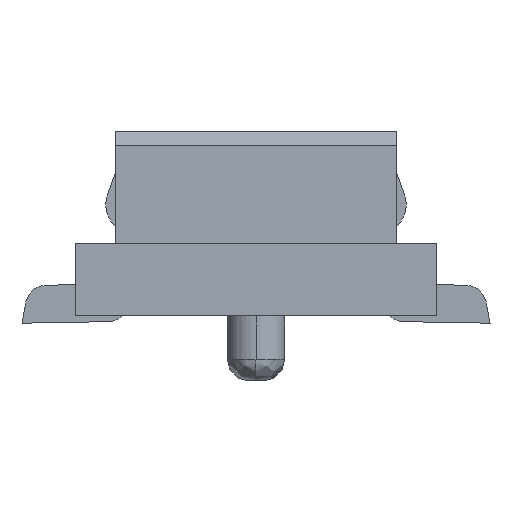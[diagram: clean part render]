
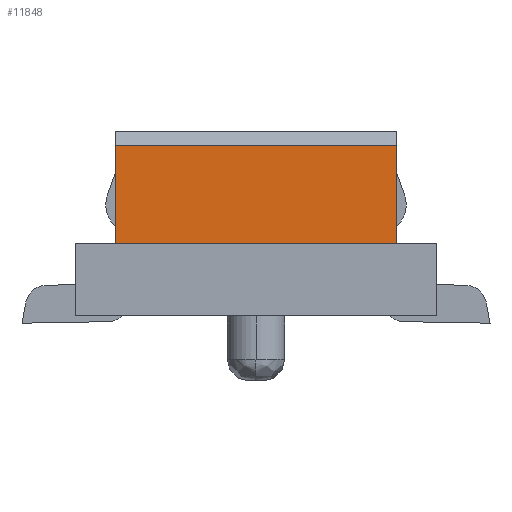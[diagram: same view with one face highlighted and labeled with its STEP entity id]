
A CAD part, left-side view. The second image highlights one B-rep face of the part: STEP entity #11848.
In plain terms, the highlighted planar face has unit normal (-1, 0, 0).
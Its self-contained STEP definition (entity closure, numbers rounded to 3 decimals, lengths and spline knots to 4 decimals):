
#631 = EDGE_CURVE ( 'NONE', #28581, #42670, #4096, .T. ) ;
#1253 = EDGE_CURVE ( 'NONE', #42670, #10628, #30663, .T. ) ;
#2260 = DIRECTION ( 'NONE',  ( 0., 1., 0. ) ) ;
#3810 = CARTESIAN_POINT ( 'NONE',  ( 1.025, 1.775, -1.28 ) ) ;
#4096 = LINE ( 'NONE', #49580, #45550 ) ;
#5394 = DIRECTION ( 'NONE',  ( 0., -1., 0. ) ) ;
#5653 = VECTOR ( 'NONE', #43430, 1000. ) ;
#6106 = DIRECTION ( 'NONE',  ( 0., 1., 0. ) ) ;
#8736 = DIRECTION ( 'NONE',  ( 0., 0., 1. ) ) ;
#10237 = VERTEX_POINT ( 'NONE', #3810 ) ;
#10628 = VERTEX_POINT ( 'NONE', #29868 ) ;
#10796 = LINE ( 'NONE', #61896, #28364 ) ;
#11428 = LINE ( 'NONE', #62206, #42815 ) ;
#11848 = ADVANCED_FACE ( 'NONE', ( #55187 ), #29656, .F. ) ;
#11910 = LINE ( 'NONE', #47765, #49811 ) ;
#15448 = EDGE_CURVE ( 'NONE', #49133, #58195, #43103, .T. ) ;
#15909 = ORIENTED_EDGE ( 'NONE', *, *, #49677, .F. ) ;
#17636 = VERTEX_POINT ( 'NONE', #36213 ) ;
#17821 = CARTESIAN_POINT ( 'NONE',  ( 1.025, 2.225, -0.1 ) ) ;
#17918 = VECTOR ( 'NONE', #43444, 1000. ) ;
#18188 = CARTESIAN_POINT ( 'NONE',  ( 1.025, 1.775, -0.78 ) ) ;
#18267 = ORIENTED_EDGE ( 'NONE', *, *, #45501, .F. ) ;
#19045 = VECTOR ( 'NONE', #63348, 1000. ) ;
#19114 = ORIENTED_EDGE ( 'NONE', *, *, #631, .F. ) ;
#19654 = EDGE_CURVE ( 'NONE', #10628, #23859, #10796, .T. ) ;
#21532 = EDGE_LOOP ( 'NONE', ( #61480, #19114, #15909, #44102, #47700, #36826, #18267, #32157 ) ) ;
#23859 = VERTEX_POINT ( 'NONE', #29689 ) ;
#24021 = CARTESIAN_POINT ( 'NONE',  ( 1.025, 1.25, -0.69 ) ) ;
#27851 = LINE ( 'NONE', #32164, #17918 ) ;
#28364 = VECTOR ( 'NONE', #46318, 1000. ) ;
#28581 = VERTEX_POINT ( 'NONE', #51223 ) ;
#29656 = PLANE ( 'NONE',  #58878 ) ;
#29689 = CARTESIAN_POINT ( 'NONE',  ( 1.025, 0.275, -0.78 ) ) ;
#29868 = CARTESIAN_POINT ( 'NONE',  ( 1.025, 0.275, -0.1 ) ) ;
#30663 = LINE ( 'NONE', #50892, #61242 ) ;
#31630 = CARTESIAN_POINT ( 'NONE',  ( 1.025, 0.725, -0.78 ) ) ;
#32157 = ORIENTED_EDGE ( 'NONE', *, *, #19654, .F. ) ;
#32164 = CARTESIAN_POINT ( 'NONE',  ( 1.025, 0.725, -1.28 ) ) ;
#36213 = CARTESIAN_POINT ( 'NONE',  ( 1.025, 1.775, -0.78 ) ) ;
#36826 = ORIENTED_EDGE ( 'NONE', *, *, #15448, .T. ) ;
#42670 = VERTEX_POINT ( 'NONE', #17821 ) ;
#42815 = VECTOR ( 'NONE', #6106, 1000. ) ;
#43103 = LINE ( 'NONE', #53378, #19045 ) ;
#43430 = DIRECTION ( 'NONE',  ( 0., 0., -1. ) ) ;
#43444 = DIRECTION ( 'NONE',  ( 0., 1., 0. ) ) ;
#43668 = CARTESIAN_POINT ( 'NONE',  ( 1.025, 0.725, -1.28 ) ) ;
#44102 = ORIENTED_EDGE ( 'NONE', *, *, #54636, .T. ) ;
#45501 = EDGE_CURVE ( 'NONE', #23859, #58195, #11428, .T. ) ;
#45550 = VECTOR ( 'NONE', #8736, 1000. ) ;
#46318 = DIRECTION ( 'NONE',  ( 0., 0., -1. ) ) ;
#47700 = ORIENTED_EDGE ( 'NONE', *, *, #49732, .F. ) ;
#47765 = CARTESIAN_POINT ( 'NONE',  ( 1.025, 1.775, -0.78 ) ) ;
#48409 = LINE ( 'NONE', #18188, #5653 ) ;
#49133 = VERTEX_POINT ( 'NONE', #43668 ) ;
#49580 = CARTESIAN_POINT ( 'NONE',  ( 1.025, 2.225, -0.78 ) ) ;
#49677 = EDGE_CURVE ( 'NONE', #17636, #28581, #11910, .T. ) ;
#49732 = EDGE_CURVE ( 'NONE', #49133, #10237, #27851, .T. ) ;
#49811 = VECTOR ( 'NONE', #2260, 1000. ) ;
#50892 = CARTESIAN_POINT ( 'NONE',  ( 1.025, 2.225, -0.1 ) ) ;
#51223 = CARTESIAN_POINT ( 'NONE',  ( 1.025, 2.225, -0.78 ) ) ;
#53378 = CARTESIAN_POINT ( 'NONE',  ( 1.025, 0.725, -1.28 ) ) ;
#53893 = DIRECTION ( 'NONE',  ( 0., 1., 0. ) ) ;
#54636 = EDGE_CURVE ( 'NONE', #17636, #10237, #48409, .T. ) ;
#55187 = FACE_OUTER_BOUND ( 'NONE', #21532, .T. ) ;
#58195 = VERTEX_POINT ( 'NONE', #31630 ) ;
#58878 = AXIS2_PLACEMENT_3D ( 'NONE', #24021, #65149, #53893 ) ;
#61242 = VECTOR ( 'NONE', #5394, 1000. ) ;
#61480 = ORIENTED_EDGE ( 'NONE', *, *, #1253, .F. ) ;
#61896 = CARTESIAN_POINT ( 'NONE',  ( 1.025, 0.275, -0.1 ) ) ;
#62206 = CARTESIAN_POINT ( 'NONE',  ( 1.025, 0.275, -0.78 ) ) ;
#63348 = DIRECTION ( 'NONE',  ( 0., 0., 1. ) ) ;
#65149 = DIRECTION ( 'NONE',  ( 1., 0., 0. ) ) ;
